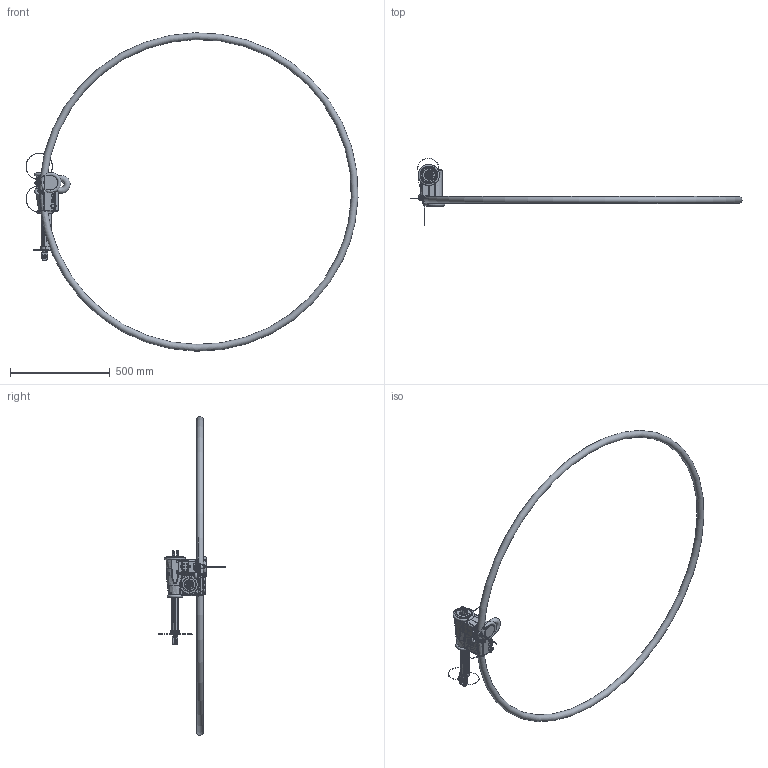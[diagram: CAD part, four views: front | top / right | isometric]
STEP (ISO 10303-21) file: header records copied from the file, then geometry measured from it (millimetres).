
FILE_DESCRIPTION((''),'2;1');
FILE_NAME('ASM0007_ASM','2014-06-04T',('tony'),(''),'PRO/ENGINEER BY PARAMETRIC TECHNOLOGY CORPORATION, 2008090','PRO/ENGINEER BY PARAMETRIC TECHNOLOGY CORPORATION, 2008090','');
FILE_SCHEMA(('CONFIG_CONTROL_DESIGN'));
Products named in the file (10): 2; PRT0016; PRT0017; ASM0005_ASM_ASM; ASM0004_ASM_ASM; ASM0003_ASM_ASM; ASM0002_ASM_ASM; ASM0001_ASM_ASM; 3_ASM; ASM0007_ASM
Assembly tree (9 placements, depth 8):
  ASM0007_ASM
    2
    3_ASM
      ASM0001_ASM_ASM
        ASM0002_ASM_ASM
          ASM0003_ASM_ASM
            ASM0004_ASM_ASM
              ASM0005_ASM_ASM
                PRT0016
                PRT0017
Bounding box: 1667.76 x 340.76 x 1599.66 mm (x, y, z)
Surface area: 1220078.6 mm2 (no closed solid volume)
Topology: 0 solids, 0 shells, 2632 faces, 14399 edges, 14204 vertices
Faces by surface type: bspline 2373, torus 231, sphere 28
Entity records: 292350 total; most frequent: CARTESIAN_POINT 172185, DIRECTION 18025, TRIMMED_CURVE 15236, DEFINITIONAL_REPRESENTATION 14039, PCURVE 14039, COMPOSITE_CURVE_SEGMENT 14039, VECTOR 13017, LINE 13017
